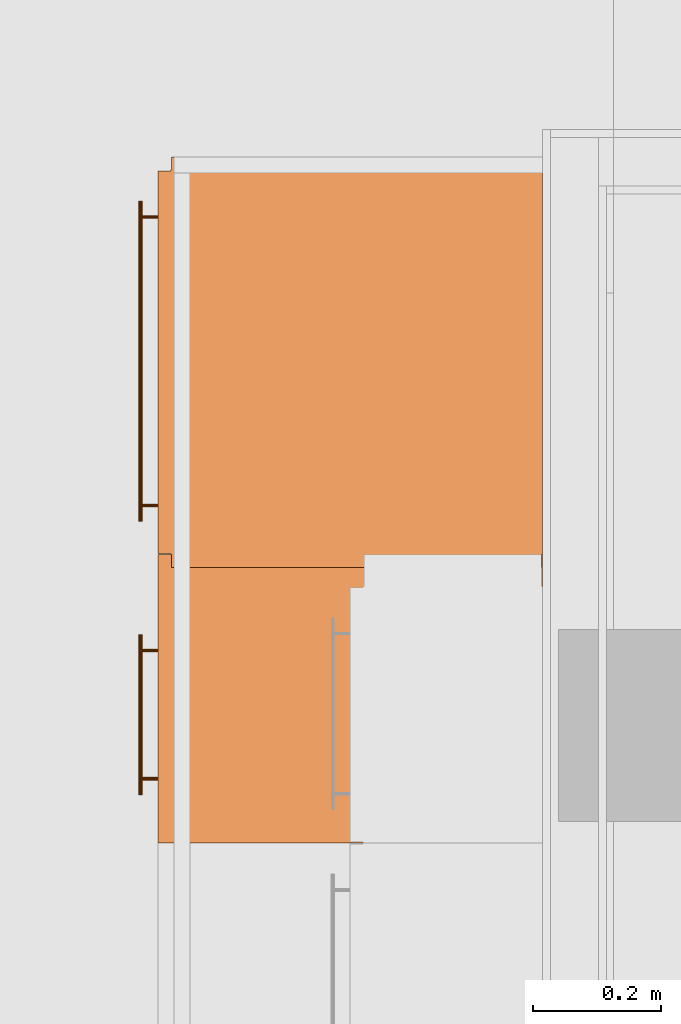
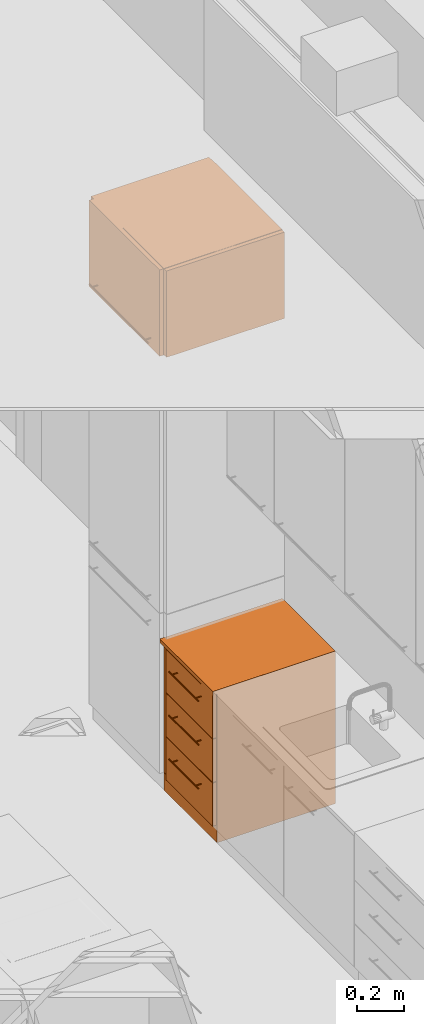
# One storey, part 150 of 167: 2 proxies.
"""IFC2X3 building model written with IfcOpenShell, lengths in millimetres."""

from ifc_helpers import new_model, entity, si_unit, converted_unit, derived_unit, money_unit, direction, frame, origin_with_axes, place, context, subcontext, project, spatial, open_shell, faceted_brep, surface_model, type_object, element, save


model = new_model("IFC2X3")

# Units and contexts
model_context = context("Model", 3, precision=0.01, world=origin_with_axes(), true_north=direction((0.0, 1.0)))
plan_context = context("Plan", 3, precision=0.01, world=origin_with_axes(), true_north=direction((0.0, 1.0)))
body_context = subcontext(model_context, "Body", "Model", "MODEL_VIEW")
ifc_project = project(units=[si_unit("LENGTHUNIT", "METRE", prefix="MILLI"), si_unit("AREAUNIT", "SQUARE_METRE"), si_unit("VOLUMEUNIT", "CUBIC_METRE"), converted_unit("PLANEANGLEUNIT", "DEGREE", entity("IfcPlaneAngleMeasure", 0.0174532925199), si_unit("PLANEANGLEUNIT", "RADIAN"), dimensions=[0, 0, 0, 0, 0, 0, 0]), si_unit("SOLIDANGLEUNIT", "STERADIAN"), money_unit("EUR"), converted_unit("TIMEUNIT", "Year", entity("IfcTimeMeasure", 31556926.0), si_unit("TIMEUNIT", "SECOND"), dimensions=[0, 0, 1, 0, 0, 0, 0]), si_unit("MASSUNIT", "GRAM", prefix="KILO"), si_unit("THERMODYNAMICTEMPERATUREUNIT", "DEGREE_CELSIUS"), si_unit("LUMINOUSINTENSITYUNIT", "LUMEN"), si_unit("ENERGYUNIT", "JOULE", prefix="MEGA"), derived_unit("THERMALCONDUCTANCEUNIT", [(si_unit("POWERUNIT", "WATT"), 1), (si_unit("LENGTHUNIT", "METRE"), -1), (si_unit("THERMODYNAMICTEMPERATUREUNIT", "KELVIN"), -1)]), derived_unit("SPECIFICHEATCAPACITYUNIT", [(si_unit("ENERGYUNIT", "JOULE"), 1), (si_unit("MASSUNIT", "GRAM", prefix="KILO"), -1), (si_unit("THERMODYNAMICTEMPERATUREUNIT", "KELVIN"), -1)]), derived_unit("MASSDENSITYUNIT", [(si_unit("MASSUNIT", "GRAM", prefix="KILO"), 1), (si_unit("VOLUMEUNIT", "CUBIC_METRE"), -1)])], contexts=[model_context, plan_context])

# Site, building, storey
site_placement = place(None, origin_with_axes())
site = spatial("IfcSite", under=ifc_project, at=site_placement, Name="Site", CompositionType="ELEMENT")
building_placement = place(site_placement, origin_with_axes())
building = spatial("IfcBuilding", under=site, at=building_placement, Name="Naam gebouw", CompositionType="ELEMENT")
storey_placement = place(building_placement, origin_with_axes())
storey = spatial("IfcBuildingStorey", under=building, at=storey_placement, Name="Begane grond", CompositionType="ELEMENT", Elevation=0.0)

# Proxies
building_element_proxy_type_1 = type_object("IfcBuildingElementProxyType", Name="Kast basis multilade 24", PredefinedType="NOTDEFINED")
proxy_1_placement = place(storey_placement, frame((27875.0, 29066.7322881, 0.0), z_axis=(0.0, 0.0, 1.0), x_axis=(0.0, -1.0, 0.0)))
element("IfcBuildingElementProxy", 1, at=proxy_1_placement, inside=storey, type_object=building_element_proxy_type_1, Name="__Object-x", context=body_context, shape_type="SurfaceModel", body=[
    faceted_brep([(51.5, 20.0, 91.5), (448.5, 20.0, 91.5), (448.5, 0.0, 91.5), (51.5, 0.0, 91.5), (51.5, 20.0, 315.166666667), (448.5, 20.0, 315.166666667), (448.5, 0.0, 315.166666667), (51.5, 0.0, 315.166666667)], [[[0, 1, 2, 3]], [[0, 4, 5, 1]], [[1, 5, 6, 2]], [[3, 2, 6, 7]], [[4, 0, 3, 7]], [[5, 4, 7, 6]]]),
    faceted_brep([(125.0, -28.1480502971, 248.895028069), (125.0, -29.1213203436, 249.545346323), (125.0, -29.7716385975, 250.51861637), (125.0, -30.0, 251.666666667), (125.0, -29.7716385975, 252.814716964), (125.0, -29.1213203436, 253.78798701), (125.0, -28.1480502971, 254.438305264), (125.0, -27.0, 254.666666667), (125.0, -25.8519497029, 254.438305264), (125.0, -24.8786796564, 253.78798701), (125.0, -24.2283614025, 252.814716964), (125.0, -24.0, 251.666666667), (125.0, -24.2283614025, 250.51861637), (125.0, -24.8786796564, 249.545346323), (125.0, -25.8519497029, 248.895028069), (125.0, -27.0, 248.666666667), (375.0, -28.1480502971, 248.895028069), (375.0, -29.1213203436, 249.545346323), (375.0, -29.7716385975, 250.51861637), (375.0, -30.0, 251.666666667), (375.0, -29.7716385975, 252.814716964), (375.0, -29.1213203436, 253.78798701), (375.0, -28.1480502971, 254.438305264), (375.0, -27.0, 254.666666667), (375.0, -25.8519497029, 254.438305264), (375.0, -24.8786796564, 253.78798701), (375.0, -24.2283614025, 252.814716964), (375.0, -24.0, 251.666666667), (375.0, -24.2283614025, 250.51861637), (375.0, -24.8786796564, 249.545346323), (375.0, -25.8519497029, 248.895028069), (375.0, -27.0, 248.666666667)], [[[0, 1, 2, 3, 4, 5, 6, 7, 8, 9, 10, 11, 12, 13, 14, 15]], [[1, 0, 16, 17]], [[2, 1, 17, 18]], [[3, 2, 18, 19]], [[4, 3, 19, 20]], [[5, 4, 20, 21]], [[6, 5, 21, 22]], [[7, 6, 22, 23]], [[8, 7, 23, 24]], [[9, 8, 24, 25]], [[10, 9, 25, 26]], [[11, 10, 26, 27]], [[12, 11, 27, 28]], [[13, 12, 28, 29]], [[14, 13, 29, 30]], [[15, 14, 30, 31]], [[0, 15, 31, 16]], [[16, 31, 30, 29, 28, 27, 26, 25, 24, 23, 22, 21, 20, 19, 18, 17]]]),
    surface_model("IfcShellBasedSurfaceModel", [(147.690301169, -24.156637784, 250.709958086), (147.5, -24.0, 251.666666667), (147.5, 0.0, 251.666666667), (147.690301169, 0.0, 250.709958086), (147.690301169, -24.156637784, 252.623375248), (147.690301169, 0.0, 252.623375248), (148.232233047, 0.0, 253.43443362), (149.043291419, 0.0, 253.976365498), (150.0, 0.0, 254.166666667), (150.956708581, 0.0, 253.976365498), (151.767766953, 0.0, 253.43443362), (152.309698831, 0.0, 252.623375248), (152.5, 0.0, 251.666666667), (152.309698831, 0.0, 250.709958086), (151.767766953, 0.0, 249.898899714), (150.956708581, 0.0, 249.356967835), (150.0, 0.0, 249.166666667), (149.043291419, 0.0, 249.356967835), (148.232233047, 0.0, 249.898899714), (148.232233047, -24.5761600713, 249.898899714), (148.232233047, -24.5761600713, 253.43443362), (149.043291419, -25.0855049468, 253.976365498), (150.0, -25.3416876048, 254.166666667), (150.956708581, -25.0855049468, 253.976365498), (151.767766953, -24.5761600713, 253.43443362), (152.309698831, -24.156637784, 252.623375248), (152.5, -24.0, 251.666666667), (152.309698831, -24.156637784, 250.709958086), (151.767766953, -24.5761600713, 249.898899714), (150.956708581, -25.0855049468, 249.356967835), (150.0, -25.3416876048, 249.166666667), (149.043291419, -25.0855049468, 249.356967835)], [open_shell([[[0, 1, 2, 3]], [[1, 4, 5, 2]], [[3, 2, 5, 6, 7, 8, 9, 10, 11, 12, 13, 14, 15, 16, 17, 18]], [[19, 0, 3, 18]], [[4, 20, 6, 5]], [[20, 21, 7, 6]], [[21, 22, 8, 7]], [[22, 23, 9, 8]], [[23, 24, 10, 9]], [[24, 25, 11, 10]], [[25, 26, 12, 11]], [[26, 27, 13, 12]], [[27, 28, 14, 13]], [[28, 29, 15, 14]], [[29, 30, 16, 15]], [[30, 31, 17, 16]], [[31, 19, 18, 17]]])]),
    surface_model("IfcShellBasedSurfaceModel", [(347.690301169, -24.156637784, 250.709958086), (347.5, -24.0, 251.666666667), (347.5, 0.0, 251.666666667), (347.690301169, 0.0, 250.709958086), (347.690301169, -24.156637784, 252.623375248), (347.690301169, 0.0, 252.623375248), (348.232233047, 0.0, 253.43443362), (349.043291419, 0.0, 253.976365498), (350.0, 0.0, 254.166666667), (350.956708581, 0.0, 253.976365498), (351.767766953, 0.0, 253.43443362), (352.309698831, 0.0, 252.623375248), (352.5, 0.0, 251.666666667), (352.309698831, 0.0, 250.709958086), (351.767766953, 0.0, 249.898899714), (350.956708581, 0.0, 249.356967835), (350.0, 0.0, 249.166666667), (349.043291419, 0.0, 249.356967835), (348.232233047, 0.0, 249.898899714), (348.232233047, -24.5761600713, 249.898899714), (348.232233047, -24.5761600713, 253.43443362), (349.043291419, -25.0855049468, 253.976365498), (350.0, -25.3416876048, 254.166666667), (350.956708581, -25.0855049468, 253.976365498), (351.767766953, -24.5761600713, 253.43443362), (352.309698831, -24.156637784, 252.623375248), (352.5, -24.0, 251.666666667), (352.309698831, -24.156637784, 250.709958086), (351.767766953, -24.5761600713, 249.898899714), (350.956708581, -25.0855049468, 249.356967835), (350.0, -25.3416876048, 249.166666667), (349.043291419, -25.0855049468, 249.356967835)], [open_shell([[[0, 1, 2, 3]], [[1, 4, 5, 2]], [[3, 2, 5, 6, 7, 8, 9, 10, 11, 12, 13, 14, 15, 16, 17, 18]], [[19, 0, 3, 18]], [[4, 20, 6, 5]], [[20, 21, 7, 6]], [[21, 22, 8, 7]], [[22, 23, 9, 8]], [[23, 24, 10, 9]], [[24, 25, 11, 10]], [[25, 26, 12, 11]], [[26, 27, 13, 12]], [[27, 28, 14, 13]], [[28, 29, 15, 14]], [[29, 30, 16, 15]], [[30, 31, 17, 16]], [[31, 19, 18, 17]]])]),
    faceted_brep([(51.5, 20.0, 318.166666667), (448.5, 20.0, 318.166666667), (448.5, 0.0, 318.166666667), (51.5, 0.0, 318.166666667), (51.5, 20.0, 541.833333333), (448.5, 20.0, 541.833333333), (448.5, 0.0, 541.833333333), (51.5, 0.0, 541.833333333)], [[[0, 1, 2, 3]], [[0, 4, 5, 1]], [[1, 5, 6, 2]], [[3, 2, 6, 7]], [[4, 0, 3, 7]], [[5, 4, 7, 6]]]),
    faceted_brep([(125.0, -28.1480502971, 475.561694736), (125.0, -29.1213203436, 476.21201299), (125.0, -29.7716385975, 477.185283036), (125.0, -30.0, 478.333333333), (125.0, -29.7716385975, 479.48138363), (125.0, -29.1213203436, 480.454653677), (125.0, -28.1480502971, 481.104971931), (125.0, -27.0, 481.333333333), (125.0, -25.8519497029, 481.104971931), (125.0, -24.8786796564, 480.454653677), (125.0, -24.2283614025, 479.48138363), (125.0, -24.0, 478.333333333), (125.0, -24.2283614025, 477.185283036), (125.0, -24.8786796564, 476.21201299), (125.0, -25.8519497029, 475.561694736), (125.0, -27.0, 475.333333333), (375.0, -28.1480502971, 475.561694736), (375.0, -29.1213203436, 476.21201299), (375.0, -29.7716385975, 477.185283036), (375.0, -30.0, 478.333333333), (375.0, -29.7716385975, 479.48138363), (375.0, -29.1213203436, 480.454653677), (375.0, -28.1480502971, 481.104971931), (375.0, -27.0, 481.333333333), (375.0, -25.8519497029, 481.104971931), (375.0, -24.8786796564, 480.454653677), (375.0, -24.2283614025, 479.48138363), (375.0, -24.0, 478.333333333), (375.0, -24.2283614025, 477.185283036), (375.0, -24.8786796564, 476.21201299), (375.0, -25.8519497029, 475.561694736), (375.0, -27.0, 475.333333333)], [[[0, 1, 2, 3, 4, 5, 6, 7, 8, 9, 10, 11, 12, 13, 14, 15]], [[1, 0, 16, 17]], [[2, 1, 17, 18]], [[3, 2, 18, 19]], [[4, 3, 19, 20]], [[5, 4, 20, 21]], [[6, 5, 21, 22]], [[7, 6, 22, 23]], [[8, 7, 23, 24]], [[9, 8, 24, 25]], [[10, 9, 25, 26]], [[11, 10, 26, 27]], [[12, 11, 27, 28]], [[13, 12, 28, 29]], [[14, 13, 29, 30]], [[15, 14, 30, 31]], [[0, 15, 31, 16]], [[16, 31, 30, 29, 28, 27, 26, 25, 24, 23, 22, 21, 20, 19, 18, 17]]]),
    surface_model("IfcShellBasedSurfaceModel", [(147.690301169, -24.156637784, 477.376624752), (147.5, -24.0, 478.333333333), (147.5, 0.0, 478.333333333), (147.690301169, 0.0, 477.376624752), (147.690301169, -24.156637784, 479.290041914), (147.690301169, 0.0, 479.290041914), (148.232233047, 0.0, 480.101100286), (149.043291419, 0.0, 480.643032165), (150.0, 0.0, 480.833333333), (150.956708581, 0.0, 480.643032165), (151.767766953, 0.0, 480.101100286), (152.309698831, 0.0, 479.290041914), (152.5, 0.0, 478.333333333), (152.309698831, 0.0, 477.376624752), (151.767766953, 0.0, 476.56556638), (150.956708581, 0.0, 476.023634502), (150.0, 0.0, 475.833333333), (149.043291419, 0.0, 476.023634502), (148.232233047, 0.0, 476.56556638), (148.232233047, -24.5761600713, 476.56556638), (148.232233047, -24.5761600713, 480.101100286), (149.043291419, -25.0855049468, 480.643032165), (150.0, -25.3416876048, 480.833333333), (150.956708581, -25.0855049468, 480.643032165), (151.767766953, -24.5761600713, 480.101100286), (152.309698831, -24.156637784, 479.290041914), (152.5, -24.0, 478.333333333), (152.309698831, -24.156637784, 477.376624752), (151.767766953, -24.5761600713, 476.56556638), (150.956708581, -25.0855049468, 476.023634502), (150.0, -25.3416876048, 475.833333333), (149.043291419, -25.0855049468, 476.023634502)], [open_shell([[[0, 1, 2, 3]], [[1, 4, 5, 2]], [[3, 2, 5, 6, 7, 8, 9, 10, 11, 12, 13, 14, 15, 16, 17, 18]], [[19, 0, 3, 18]], [[4, 20, 6, 5]], [[20, 21, 7, 6]], [[21, 22, 8, 7]], [[22, 23, 9, 8]], [[23, 24, 10, 9]], [[24, 25, 11, 10]], [[25, 26, 12, 11]], [[26, 27, 13, 12]], [[27, 28, 14, 13]], [[28, 29, 15, 14]], [[29, 30, 16, 15]], [[30, 31, 17, 16]], [[31, 19, 18, 17]]])]),
    surface_model("IfcShellBasedSurfaceModel", [(347.690301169, -24.156637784, 477.376624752), (347.5, -24.0, 478.333333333), (347.5, 0.0, 478.333333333), (347.690301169, 0.0, 477.376624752), (347.690301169, -24.156637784, 479.290041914), (347.690301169, 0.0, 479.290041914), (348.232233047, 0.0, 480.101100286), (349.043291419, 0.0, 480.643032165), (350.0, 0.0, 480.833333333), (350.956708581, 0.0, 480.643032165), (351.767766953, 0.0, 480.101100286), (352.309698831, 0.0, 479.290041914), (352.5, 0.0, 478.333333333), (352.309698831, 0.0, 477.376624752), (351.767766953, 0.0, 476.56556638), (350.956708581, 0.0, 476.023634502), (350.0, 0.0, 475.833333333), (349.043291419, 0.0, 476.023634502), (348.232233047, 0.0, 476.56556638), (348.232233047, -24.5761600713, 476.56556638), (348.232233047, -24.5761600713, 480.101100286), (349.043291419, -25.0855049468, 480.643032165), (350.0, -25.3416876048, 480.833333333), (350.956708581, -25.0855049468, 480.643032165), (351.767766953, -24.5761600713, 480.101100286), (352.309698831, -24.156637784, 479.290041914), (352.5, -24.0, 478.333333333), (352.309698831, -24.156637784, 477.376624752), (351.767766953, -24.5761600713, 476.56556638), (350.956708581, -25.0855049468, 476.023634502), (350.0, -25.3416876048, 475.833333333), (349.043291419, -25.0855049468, 476.023634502)], [open_shell([[[0, 1, 2, 3]], [[1, 4, 5, 2]], [[3, 2, 5, 6, 7, 8, 9, 10, 11, 12, 13, 14, 15, 16, 17, 18]], [[19, 0, 3, 18]], [[4, 20, 6, 5]], [[20, 21, 7, 6]], [[21, 22, 8, 7]], [[22, 23, 9, 8]], [[23, 24, 10, 9]], [[24, 25, 11, 10]], [[25, 26, 12, 11]], [[26, 27, 13, 12]], [[27, 28, 14, 13]], [[28, 29, 15, 14]], [[29, 30, 16, 15]], [[30, 31, 17, 16]], [[31, 19, 18, 17]]])]),
    faceted_brep([(70.0, 20.0, 316.666666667), (430.0, 20.0, 316.666666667), (430.0, 20.0, 336.666666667), (70.0, 20.0, 336.666666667), (70.0, 580.0, 316.666666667), (430.0, 580.0, 316.666666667), (430.0, 580.0, 336.666666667), (70.0, 580.0, 336.666666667)], [[[0, 1, 2, 3]], [[0, 4, 5, 1]], [[1, 5, 6, 2]], [[3, 2, 6, 7]], [[4, 0, 3, 7]], [[5, 4, 7, 6]]]),
    faceted_brep([(51.5, 20.0, 544.833333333), (448.5, 20.0, 544.833333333), (448.5, 0.0, 544.833333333), (51.5, 0.0, 544.833333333), (51.5, 20.0, 768.5), (448.5, 20.0, 768.5), (448.5, 0.0, 768.5), (51.5, 0.0, 768.5)], [[[0, 1, 2, 3]], [[0, 4, 5, 1]], [[1, 5, 6, 2]], [[3, 2, 6, 7]], [[4, 0, 3, 7]], [[5, 4, 7, 6]]]),
    faceted_brep([(125.0, -28.1480502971, 702.228361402), (125.0, -29.1213203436, 702.878679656), (125.0, -29.7716385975, 703.851949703), (125.0, -30.0, 705.0), (125.0, -29.7716385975, 706.148050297), (125.0, -29.1213203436, 707.121320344), (125.0, -28.1480502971, 707.771638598), (125.0, -27.0, 708.0), (125.0, -25.8519497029, 707.771638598), (125.0, -24.8786796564, 707.121320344), (125.0, -24.2283614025, 706.148050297), (125.0, -24.0, 705.0), (125.0, -24.2283614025, 703.851949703), (125.0, -24.8786796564, 702.878679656), (125.0, -25.8519497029, 702.228361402), (125.0, -27.0, 702.0), (375.0, -28.1480502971, 702.228361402), (375.0, -29.1213203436, 702.878679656), (375.0, -29.7716385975, 703.851949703), (375.0, -30.0, 705.0), (375.0, -29.7716385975, 706.148050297), (375.0, -29.1213203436, 707.121320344), (375.0, -28.1480502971, 707.771638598), (375.0, -27.0, 708.0), (375.0, -25.8519497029, 707.771638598), (375.0, -24.8786796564, 707.121320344), (375.0, -24.2283614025, 706.148050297), (375.0, -24.0, 705.0), (375.0, -24.2283614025, 703.851949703), (375.0, -24.8786796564, 702.878679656), (375.0, -25.8519497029, 702.228361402), (375.0, -27.0, 702.0)], [[[0, 1, 2, 3, 4, 5, 6, 7, 8, 9, 10, 11, 12, 13, 14, 15]], [[1, 0, 16, 17]], [[2, 1, 17, 18]], [[3, 2, 18, 19]], [[4, 3, 19, 20]], [[5, 4, 20, 21]], [[6, 5, 21, 22]], [[7, 6, 22, 23]], [[8, 7, 23, 24]], [[9, 8, 24, 25]], [[10, 9, 25, 26]], [[11, 10, 26, 27]], [[12, 11, 27, 28]], [[13, 12, 28, 29]], [[14, 13, 29, 30]], [[15, 14, 30, 31]], [[0, 15, 31, 16]], [[16, 31, 30, 29, 28, 27, 26, 25, 24, 23, 22, 21, 20, 19, 18, 17]]]),
    surface_model("IfcShellBasedSurfaceModel", [(147.690301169, -24.156637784, 704.043291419), (147.5, -24.0, 705.0), (147.5, 0.0, 705.0), (147.690301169, 0.0, 704.043291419), (147.690301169, -24.156637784, 705.956708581), (147.690301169, 0.0, 705.956708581), (148.232233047, 0.0, 706.767766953), (149.043291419, 0.0, 707.309698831), (150.0, 0.0, 707.5), (150.956708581, 0.0, 707.309698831), (151.767766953, 0.0, 706.767766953), (152.309698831, 0.0, 705.956708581), (152.5, 0.0, 705.0), (152.309698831, 0.0, 704.043291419), (151.767766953, 0.0, 703.232233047), (150.956708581, 0.0, 702.690301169), (150.0, 0.0, 702.5), (149.043291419, 0.0, 702.690301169), (148.232233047, 0.0, 703.232233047), (148.232233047, -24.5761600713, 703.232233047), (148.232233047, -24.5761600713, 706.767766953), (149.043291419, -25.0855049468, 707.309698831), (150.0, -25.3416876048, 707.5), (150.956708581, -25.0855049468, 707.309698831), (151.767766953, -24.5761600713, 706.767766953), (152.309698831, -24.156637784, 705.956708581), (152.5, -24.0, 705.0), (152.309698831, -24.156637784, 704.043291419), (151.767766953, -24.5761600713, 703.232233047), (150.956708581, -25.0855049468, 702.690301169), (150.0, -25.3416876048, 702.5), (149.043291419, -25.0855049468, 702.690301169)], [open_shell([[[0, 1, 2, 3]], [[1, 4, 5, 2]], [[3, 2, 5, 6, 7, 8, 9, 10, 11, 12, 13, 14, 15, 16, 17, 18]], [[19, 0, 3, 18]], [[4, 20, 6, 5]], [[20, 21, 7, 6]], [[21, 22, 8, 7]], [[22, 23, 9, 8]], [[23, 24, 10, 9]], [[24, 25, 11, 10]], [[25, 26, 12, 11]], [[26, 27, 13, 12]], [[27, 28, 14, 13]], [[28, 29, 15, 14]], [[29, 30, 16, 15]], [[30, 31, 17, 16]], [[31, 19, 18, 17]]])]),
    surface_model("IfcShellBasedSurfaceModel", [(347.690301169, -24.156637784, 704.043291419), (347.5, -24.0, 705.0), (347.5, 0.0, 705.0), (347.690301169, 0.0, 704.043291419), (347.690301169, -24.156637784, 705.956708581), (347.690301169, 0.0, 705.956708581), (348.232233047, 0.0, 706.767766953), (349.043291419, 0.0, 707.309698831), (350.0, 0.0, 707.5), (350.956708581, 0.0, 707.309698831), (351.767766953, 0.0, 706.767766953), (352.309698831, 0.0, 705.956708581), (352.5, 0.0, 705.0), (352.309698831, 0.0, 704.043291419), (351.767766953, 0.0, 703.232233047), (350.956708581, 0.0, 702.690301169), (350.0, 0.0, 702.5), (349.043291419, 0.0, 702.690301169), (348.232233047, 0.0, 703.232233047), (348.232233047, -24.5761600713, 703.232233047), (348.232233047, -24.5761600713, 706.767766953), (349.043291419, -25.0855049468, 707.309698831), (350.0, -25.3416876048, 707.5), (350.956708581, -25.0855049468, 707.309698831), (351.767766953, -24.5761600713, 706.767766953), (352.309698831, -24.156637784, 705.956708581), (352.5, -24.0, 705.0), (352.309698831, -24.156637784, 704.043291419), (351.767766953, -24.5761600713, 703.232233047), (350.956708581, -25.0855049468, 702.690301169), (350.0, -25.3416876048, 702.5), (349.043291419, -25.0855049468, 702.690301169)], [open_shell([[[0, 1, 2, 3]], [[1, 4, 5, 2]], [[3, 2, 5, 6, 7, 8, 9, 10, 11, 12, 13, 14, 15, 16, 17, 18]], [[19, 0, 3, 18]], [[4, 20, 6, 5]], [[20, 21, 7, 6]], [[21, 22, 8, 7]], [[22, 23, 9, 8]], [[23, 24, 10, 9]], [[24, 25, 11, 10]], [[25, 26, 12, 11]], [[26, 27, 13, 12]], [[27, 28, 14, 13]], [[28, 29, 15, 14]], [[29, 30, 16, 15]], [[30, 31, 17, 16]], [[31, 19, 18, 17]]])]),
    faceted_brep([(70.0, 20.0, 543.333333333), (430.0, 20.0, 543.333333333), (430.0, 20.0, 563.333333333), (70.0, 20.0, 563.333333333), (70.0, 580.0, 543.333333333), (430.0, 580.0, 543.333333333), (430.0, 580.0, 563.333333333), (70.0, 580.0, 563.333333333)], [[[0, 1, 2, 3]], [[0, 4, 5, 1]], [[1, 5, 6, 2]], [[3, 2, 6, 7]], [[4, 0, 3, 7]], [[5, 4, 7, 6]]]),
    faceted_brep([(0.0, 20.0, 0.0), (450.0, 20.0, 0.0), (450.0, 20.0, 90.0), (0.0, 20.0, 90.0), (0.0, 600.0, 0.0), (450.0, 600.0, 0.0), (450.0, 600.0, 90.0), (0.0, 600.0, 90.0)], [[[0, 1, 2, 3]], [[0, 4, 5, 1]], [[1, 5, 6, 2]], [[3, 2, 6, 7]], [[4, 0, 3, 7]], [[5, 4, 7, 6]]]),
    faceted_brep([(50.0, 20.0, 750.0), (70.0, 20.0, 750.0), (70.0, 20.0, 770.0), (50.0, 20.0, 770.0), (50.0, 600.0, 750.0), (70.0, 600.0, 750.0), (430.0, 600.0, 750.0), (450.0, 600.0, 750.0), (450.0, 20.0, 750.0), (430.0, 20.0, 750.0), (430.0, 20.0, 770.0), (450.0, 20.0, 770.0), (450.0, 600.0, 770.0), (430.0, 600.0, 770.0), (70.0, 600.0, 770.0), (50.0, 600.0, 770.0)], [[[0, 1, 2, 3]], [[0, 4, 5, 6, 7, 8, 9, 1]], [[1, 9, 10, 2]], [[3, 2, 10, 11, 12, 13, 14, 15]], [[4, 0, 3, 15]], [[5, 4, 15, 14]], [[6, 5, 14, 13]], [[7, 6, 13, 12]], [[8, 7, 12, 11]], [[9, 8, 11, 10]]]),
    faceted_brep([(50.0, 20.0, 90.0), (70.0, 20.0, 90.0), (70.0, 20.0, 110.0), (50.0, 20.0, 110.0), (50.0, 600.0, 90.0), (70.0, 600.0, 90.0), (430.0, 600.0, 90.0), (450.0, 600.0, 90.0), (450.0, 20.0, 90.0), (430.0, 20.0, 90.0), (430.0, 20.0, 110.0), (450.0, 20.0, 110.0), (450.0, 600.0, 110.0), (430.0, 600.0, 110.0), (70.0, 600.0, 110.0), (50.0, 600.0, 110.0)], [[[0, 1, 2, 3]], [[0, 4, 5, 6, 7, 8, 9, 1]], [[1, 9, 10, 2]], [[3, 2, 10, 11, 12, 13, 14, 15]], [[4, 0, 3, 15]], [[5, 4, 15, 14]], [[6, 5, 14, 13]], [[7, 6, 13, 12]], [[8, 7, 12, 11]], [[9, 8, 11, 10]]]),
    faceted_brep([(50.0, 20.0, 110.0), (70.0, 20.0, 110.0), (70.0, 20.0, 750.0), (50.0, 20.0, 750.0), (50.0, 600.0, 110.0), (450.0, 600.0, 110.0), (450.0, 20.0, 110.0), (430.0, 20.0, 110.0), (430.0, 580.0, 110.0), (70.0, 580.0, 110.0), (70.0, 580.0, 750.0), (430.0, 580.0, 750.0), (430.0, 20.0, 750.0), (450.0, 20.0, 750.0), (450.0, 600.0, 750.0), (50.0, 600.0, 750.0)], [[[0, 1, 2, 3]], [[0, 4, 5, 6, 7, 8, 9, 1]], [[1, 9, 10, 2]], [[3, 2, 10, 11, 12, 13, 14, 15]], [[4, 0, 3, 15]], [[5, 4, 15, 14]], [[6, 5, 14, 13]], [[7, 6, 13, 12]], [[8, 7, 12, 11]], [[9, 8, 11, 10]]]),
    faceted_brep([(0.0, 0.0, 770.0), (450.0, 0.0, 770.0), (450.0, 0.0, 790.0), (0.0, 0.0, 790.0), (0.0, 600.0, 770.0), (450.0, 600.0, 770.0), (450.0, 600.0, 790.0), (0.0, 600.0, 790.0)], [[[0, 1, 2, 3]], [[0, 4, 5, 1]], [[1, 5, 6, 2]], [[3, 2, 6, 7]], [[4, 0, 3, 7]], [[5, 4, 7, 6]]]),
    faceted_brep([(50.0, 598.5, 91.5), (50.0, 21.5, 91.5), (0.0, 21.5, 91.5), (0.0, 598.5, 91.5), (50.0, 598.5, 768.5), (50.0, 21.5, 768.5), (0.0, 21.5, 768.5), (0.0, 598.5, 768.5)], [[[0, 1, 2, 3]], [[0, 4, 5, 1]], [[1, 5, 6, 2]], [[3, 2, 6, 7]], [[4, 0, 3, 7]], [[5, 4, 7, 6]]]),
])
building_element_proxy_type_2 = type_object("IfcBuildingElementProxyType", Name="Kast wand 1D 24", PredefinedType="NOTDEFINED")
proxy_2_placement = place(storey_placement, frame((27875.0, 29686.7322881, 750.0), z_axis=(0.0, 0.0, 1.0), x_axis=(0.0, -1.0, 0.0)))
element("IfcBuildingElementProxy", 2, at=proxy_2_placement, inside=storey, type_object=building_element_proxy_type_2, Name="__Object-x", context=body_context, shape_type="SurfaceModel", body=[
    faceted_brep([(20.0, 20.0, 1930.0), (40.0, 20.0, 1930.0), (40.0, 20.0, 1950.0), (20.0, 20.0, 1950.0), (20.0, 600.0, 1930.0), (40.0, 600.0, 1930.0), (600.0, 600.0, 1930.0), (620.0, 600.0, 1930.0), (620.0, 20.0, 1930.0), (600.0, 20.0, 1930.0), (600.0, 20.0, 1950.0), (620.0, 20.0, 1950.0), (620.0, 600.0, 1950.0), (600.0, 600.0, 1950.0), (40.0, 600.0, 1950.0), (20.0, 600.0, 1950.0)], [[[0, 1, 2, 3]], [[0, 4, 5, 6, 7, 8, 9, 1]], [[1, 9, 10, 2]], [[3, 2, 10, 11, 12, 13, 14, 15]], [[4, 0, 3, 15]], [[5, 4, 15, 14]], [[6, 5, 14, 13]], [[7, 6, 13, 12]], [[8, 7, 12, 11]], [[9, 8, 11, 10]]]),
    faceted_brep([(20.0, 20.0, 1500.0), (40.0, 20.0, 1500.0), (40.0, 20.0, 1520.0), (20.0, 20.0, 1520.0), (20.0, 600.0, 1500.0), (40.0, 600.0, 1500.0), (600.0, 600.0, 1500.0), (620.0, 600.0, 1500.0), (620.0, 20.0, 1500.0), (600.0, 20.0, 1500.0), (600.0, 20.0, 1520.0), (620.0, 20.0, 1520.0), (620.0, 600.0, 1520.0), (600.0, 600.0, 1520.0), (40.0, 600.0, 1520.0), (20.0, 600.0, 1520.0)], [[[0, 1, 2, 3]], [[0, 4, 5, 6, 7, 8, 9, 1]], [[1, 9, 10, 2]], [[3, 2, 10, 11, 12, 13, 14, 15]], [[4, 0, 3, 15]], [[5, 4, 15, 14]], [[6, 5, 14, 13]], [[7, 6, 13, 12]], [[8, 7, 12, 11]], [[9, 8, 11, 10]]]),
    faceted_brep([(20.0, 20.0, 1520.0), (40.0, 20.0, 1520.0), (40.0, 20.0, 1930.0), (20.0, 20.0, 1930.0), (20.0, 600.0, 1520.0), (620.0, 600.0, 1520.0), (620.0, 20.0, 1520.0), (600.0, 20.0, 1520.0), (600.0, 580.0, 1520.0), (40.0, 580.0, 1520.0), (40.0, 580.0, 1930.0), (600.0, 580.0, 1930.0), (600.0, 20.0, 1930.0), (620.0, 20.0, 1930.0), (620.0, 600.0, 1930.0), (20.0, 600.0, 1930.0)], [[[0, 1, 2, 3]], [[0, 4, 5, 6, 7, 8, 9, 1]], [[1, 9, 10, 2]], [[3, 2, 10, 11, 12, 13, 14, 15]], [[4, 0, 3, 15]], [[5, 4, 15, 14]], [[6, 5, 14, 13]], [[7, 6, 13, 12]], [[8, 7, 12, 11]], [[9, 8, 11, 10]]]),
    faceted_brep([(600.0, 20.0, 1630.0), (600.0, 580.0, 1630.0), (600.0, 580.0, 1650.0), (600.0, 20.0, 1650.0), (40.0, 20.0, 1630.0), (40.0, 580.0, 1630.0), (40.0, 580.0, 1650.0), (40.0, 20.0, 1650.0)], [[[0, 1, 2, 3]], [[0, 4, 5, 1]], [[1, 5, 6, 2]], [[3, 2, 6, 7]], [[4, 0, 3, 7]], [[5, 4, 7, 6]]]),
    faceted_brep([(600.0, 20.0, 1780.0), (600.0, 580.0, 1780.0), (600.0, 580.0, 1800.0), (600.0, 20.0, 1800.0), (40.0, 20.0, 1780.0), (40.0, 580.0, 1780.0), (40.0, 580.0, 1800.0), (40.0, 20.0, 1800.0)], [[[0, 1, 2, 3]], [[0, 4, 5, 1]], [[1, 5, 6, 2]], [[3, 2, 6, 7]], [[4, 0, 3, 7]], [[5, 4, 7, 6]]]),
    faceted_brep([(21.5, 20.0, 1501.5), (618.5, 20.0, 1501.5), (618.5, 0.0, 1501.5), (21.5, 0.0, 1501.5), (21.5, 20.0, 1948.5), (618.5, 20.0, 1948.5), (618.5, 0.0, 1948.5), (21.5, 0.0, 1948.5)], [[[0, 1, 2, 3]], [[0, 4, 5, 1]], [[1, 5, 6, 2]], [[3, 2, 6, 7]], [[4, 0, 3, 7]], [[5, 4, 7, 6]]]),
    faceted_brep([(68.5, -28.1480502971, 1548.7283614), (68.5, -29.1213203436, 1549.37867966), (68.5, -29.7716385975, 1550.3519497), (68.5, -30.0, 1551.5), (68.5, -29.7716385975, 1552.6480503), (68.5, -29.1213203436, 1553.62132034), (68.5, -28.1480502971, 1554.2716386), (68.5, -27.0, 1554.5), (68.5, -25.8519497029, 1554.2716386), (68.5, -24.8786796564, 1553.62132034), (68.5, -24.2283614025, 1552.6480503), (68.5, -24.0, 1551.5), (68.5, -24.2283614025, 1550.3519497), (68.5, -24.8786796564, 1549.37867966), (68.5, -25.8519497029, 1548.7283614), (68.5, -27.0, 1548.5), (568.5, -28.1480502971, 1548.7283614), (568.5, -29.1213203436, 1549.37867966), (568.5, -29.7716385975, 1550.3519497), (568.5, -30.0, 1551.5), (568.5, -29.7716385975, 1552.6480503), (568.5, -29.1213203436, 1553.62132034), (568.5, -28.1480502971, 1554.2716386), (568.5, -27.0, 1554.5), (568.5, -25.8519497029, 1554.2716386), (568.5, -24.8786796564, 1553.62132034), (568.5, -24.2283614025, 1552.6480503), (568.5, -24.0, 1551.5), (568.5, -24.2283614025, 1550.3519497), (568.5, -24.8786796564, 1549.37867966), (568.5, -25.8519497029, 1548.7283614), (568.5, -27.0, 1548.5)], [[[0, 1, 2, 3, 4, 5, 6, 7, 8, 9, 10, 11, 12, 13, 14, 15]], [[1, 0, 16, 17]], [[2, 1, 17, 18]], [[3, 2, 18, 19]], [[4, 3, 19, 20]], [[5, 4, 20, 21]], [[6, 5, 21, 22]], [[7, 6, 22, 23]], [[8, 7, 23, 24]], [[9, 8, 24, 25]], [[10, 9, 25, 26]], [[11, 10, 26, 27]], [[12, 11, 27, 28]], [[13, 12, 28, 29]], [[14, 13, 29, 30]], [[15, 14, 30, 31]], [[0, 15, 31, 16]], [[16, 31, 30, 29, 28, 27, 26, 25, 24, 23, 22, 21, 20, 19, 18, 17]]]),
    surface_model("IfcShellBasedSurfaceModel", [(91.1903011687, -24.156637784, 1550.54329142), (91.0, -24.0, 1551.5), (91.0, 0.0, 1551.5), (91.1903011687, 0.0, 1550.54329142), (91.1903011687, -24.156637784, 1552.45670858), (91.1903011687, 0.0, 1552.45670858), (91.732233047, 0.0, 1553.26776695), (92.5432914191, 0.0, 1553.80969883), (93.5, 0.0, 1554.0), (94.4567085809, 0.0, 1553.80969883), (95.267766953, 0.0, 1553.26776695), (95.8096988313, 0.0, 1552.45670858), (96.0, 0.0, 1551.5), (95.8096988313, 0.0, 1550.54329142), (95.267766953, 0.0, 1549.73223305), (94.4567085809, 0.0, 1549.19030117), (93.5, 0.0, 1549.0), (92.5432914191, 0.0, 1549.19030117), (91.732233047, 0.0, 1549.73223305), (91.732233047, -24.5761600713, 1549.73223305), (91.732233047, -24.5761600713, 1553.26776695), (92.5432914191, -25.0855049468, 1553.80969883), (93.5, -25.3416876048, 1554.0), (94.4567085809, -25.0855049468, 1553.80969883), (95.267766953, -24.5761600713, 1553.26776695), (95.8096988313, -24.156637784, 1552.45670858), (96.0, -24.0, 1551.5), (95.8096988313, -24.156637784, 1550.54329142), (95.267766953, -24.5761600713, 1549.73223305), (94.4567085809, -25.0855049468, 1549.19030117), (93.5, -25.3416876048, 1549.0), (92.5432914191, -25.0855049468, 1549.19030117)], [open_shell([[[0, 1, 2, 3]], [[1, 4, 5, 2]], [[3, 2, 5, 6, 7, 8, 9, 10, 11, 12, 13, 14, 15, 16, 17, 18]], [[19, 0, 3, 18]], [[4, 20, 6, 5]], [[20, 21, 7, 6]], [[21, 22, 8, 7]], [[22, 23, 9, 8]], [[23, 24, 10, 9]], [[24, 25, 11, 10]], [[25, 26, 12, 11]], [[26, 27, 13, 12]], [[27, 28, 14, 13]], [[28, 29, 15, 14]], [[29, 30, 16, 15]], [[30, 31, 17, 16]], [[31, 19, 18, 17]]])]),
    surface_model("IfcShellBasedSurfaceModel", [(541.190301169, -24.156637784, 1550.54329142), (541.0, -24.0, 1551.5), (541.0, 0.0, 1551.5), (541.190301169, 0.0, 1550.54329142), (541.190301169, -24.156637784, 1552.45670858), (541.190301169, 0.0, 1552.45670858), (541.732233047, 0.0, 1553.26776695), (542.543291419, 0.0, 1553.80969883), (543.5, 0.0, 1554.0), (544.456708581, 0.0, 1553.80969883), (545.267766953, 0.0, 1553.26776695), (545.809698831, 0.0, 1552.45670858), (546.0, 0.0, 1551.5), (545.809698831, 0.0, 1550.54329142), (545.267766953, 0.0, 1549.73223305), (544.456708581, 0.0, 1549.19030117), (543.5, 0.0, 1549.0), (542.543291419, 0.0, 1549.19030117), (541.732233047, 0.0, 1549.73223305), (541.732233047, -24.5761600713, 1549.73223305), (541.732233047, -24.5761600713, 1553.26776695), (542.543291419, -25.0855049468, 1553.80969883), (543.5, -25.3416876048, 1554.0), (544.456708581, -25.0855049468, 1553.80969883), (545.267766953, -24.5761600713, 1553.26776695), (545.809698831, -24.156637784, 1552.45670858), (546.0, -24.0, 1551.5), (545.809698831, -24.156637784, 1550.54329142), (545.267766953, -24.5761600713, 1549.73223305), (544.456708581, -25.0855049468, 1549.19030117), (543.5, -25.3416876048, 1549.0), (542.543291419, -25.0855049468, 1549.19030117)], [open_shell([[[0, 1, 2, 3]], [[1, 4, 5, 2]], [[3, 2, 5, 6, 7, 8, 9, 10, 11, 12, 13, 14, 15, 16, 17, 18]], [[19, 0, 3, 18]], [[4, 20, 6, 5]], [[20, 21, 7, 6]], [[21, 22, 8, 7]], [[22, 23, 9, 8]], [[23, 24, 10, 9]], [[24, 25, 11, 10]], [[25, 26, 12, 11]], [[26, 27, 13, 12]], [[27, 28, 14, 13]], [[28, 29, 15, 14]], [[29, 30, 16, 15]], [[30, 31, 17, 16]], [[31, 19, 18, 17]]])]),
    faceted_brep([(20.0, 598.5, 1501.5), (20.0, 21.5, 1501.5), (0.0, 21.5, 1501.5), (0.0, 598.5, 1501.5), (20.0, 598.5, 1948.5), (20.0, 21.5, 1948.5), (0.0, 21.5, 1948.5), (0.0, 598.5, 1948.5)], [[[0, 1, 2, 3]], [[0, 4, 5, 1]], [[1, 5, 6, 2]], [[3, 2, 6, 7]], [[4, 0, 3, 7]], [[5, 4, 7, 6]]]),
    faceted_brep([(620.0, 21.5, 1501.5), (620.0, 598.5, 1501.5), (640.0, 598.5, 1501.5), (640.0, 21.5, 1501.5), (620.0, 21.5, 1948.5), (620.0, 598.5, 1948.5), (640.0, 598.5, 1948.5), (640.0, 21.5, 1948.5)], [[[0, 1, 2, 3]], [[0, 4, 5, 1]], [[1, 5, 6, 2]], [[3, 2, 6, 7]], [[4, 0, 3, 7]], [[5, 4, 7, 6]]]),
])

save(model, "model.ifc")
